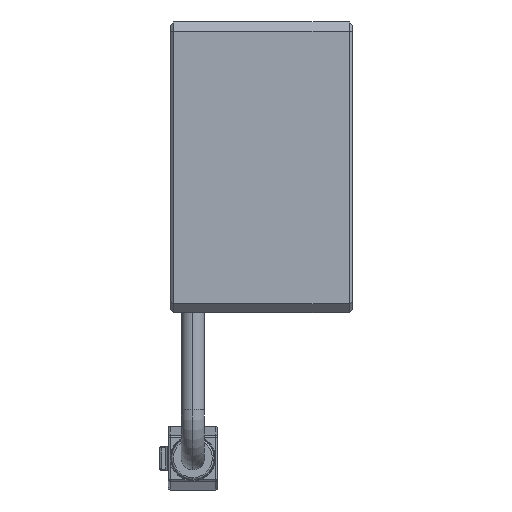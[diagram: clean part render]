
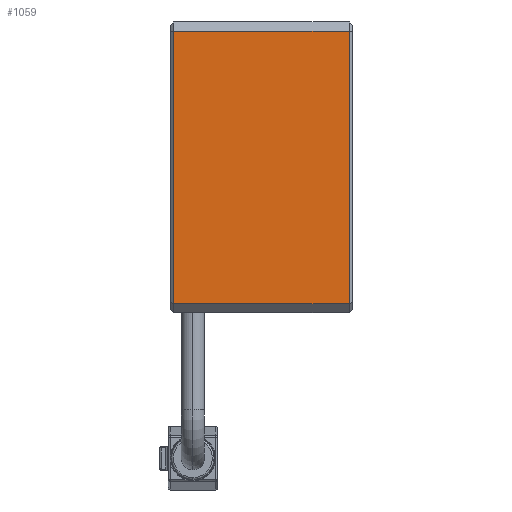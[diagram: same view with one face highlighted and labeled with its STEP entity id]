
A CAD part, left-side view. The second image highlights one B-rep face of the part: STEP entity #1059.
In plain terms, the highlighted planar face has unit normal (-1, 0, 0).
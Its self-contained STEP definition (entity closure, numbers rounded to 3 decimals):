
#221=DIRECTION('',(0.,0.,1.));
#222=VECTOR('',#221,45.);
#223=CARTESIAN_POINT('',(-24.,29.5,-22.5));
#224=LINE('',#223,#222);
#225=DIRECTION('',(0.,-1.,0.));
#226=VECTOR('',#225,29.);
#227=CARTESIAN_POINT('',(-24.,29.5,22.5));
#228=LINE('',#227,#226);
#229=DIRECTION('',(0.,0.,-1.));
#230=VECTOR('',#229,45.);
#231=CARTESIAN_POINT('',(-24.,0.5,22.5));
#232=LINE('',#231,#230);
#233=DIRECTION('',(0.,-1.,0.));
#234=VECTOR('',#233,29.);
#235=CARTESIAN_POINT('',(-24.,29.5,-22.5));
#236=LINE('',#235,#234);
#541=CARTESIAN_POINT('',(-24.,29.5,-22.5));
#542=VERTEX_POINT('',#541);
#543=CARTESIAN_POINT('',(-24.,29.5,22.5));
#544=VERTEX_POINT('',#543);
#560=CARTESIAN_POINT('',(-24.,0.5,22.5));
#562=VERTEX_POINT('',#560);
#563=CARTESIAN_POINT('',(-24.,0.5,-22.5));
#564=VERTEX_POINT('',#563);
#1046=CARTESIAN_POINT('',(-24.,0.,-24.));
#1047=DIRECTION('',(-1.,0.,0.));
#1048=DIRECTION('',(0.,0.,1.));
#1049=AXIS2_PLACEMENT_3D('',#1046,#1047,#1048);
#1050=PLANE('',#1049);
#1052=ORIENTED_EDGE('',*,*,#1051,.T.);
#1053=ORIENTED_EDGE('',*,*,#1014,.T.);
#1054=ORIENTED_EDGE('',*,*,#1037,.T.);
#1056=ORIENTED_EDGE('',*,*,#1055,.F.);
#1057=EDGE_LOOP('',(#1052,#1053,#1054,#1056));
#1058=FACE_OUTER_BOUND('',#1057,.F.);
#1059=ADVANCED_FACE('',(#1058),#1050,.T.);
#1014=EDGE_CURVE('',#544,#562,#228,.T.);
#1037=EDGE_CURVE('',#562,#564,#232,.T.);
#1051=EDGE_CURVE('',#542,#544,#224,.T.);
#1055=EDGE_CURVE('',#542,#564,#236,.T.);
